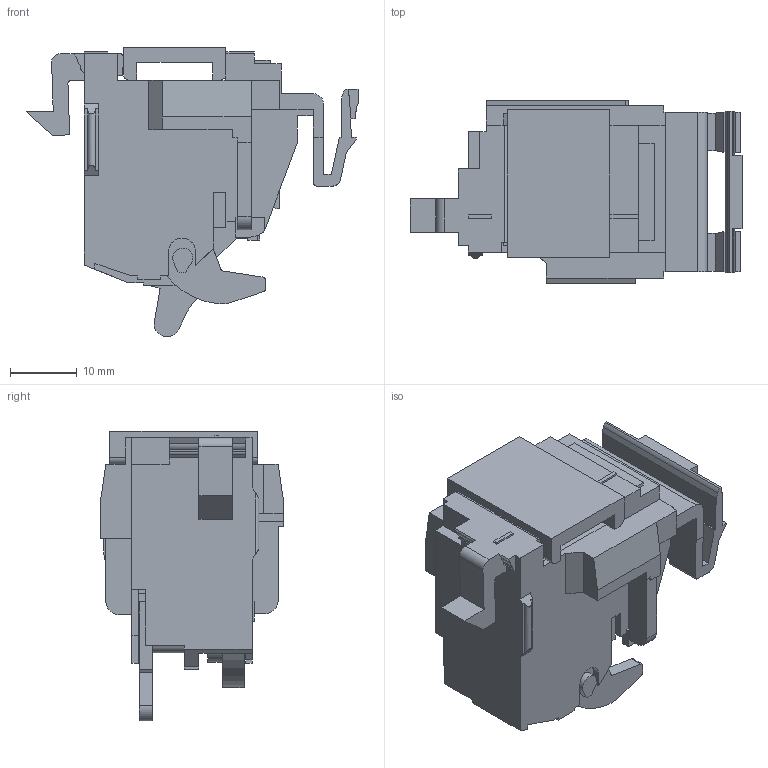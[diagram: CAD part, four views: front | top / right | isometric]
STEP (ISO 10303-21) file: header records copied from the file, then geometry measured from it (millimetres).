
FILE_DESCRIPTION(/* description */ (''),/* implementation_level */ '2;1');
FILE_NAME(/* name */ '2023.11.10.stp',/* time_stamp */ '2023-11-10T14:08:06+08:00',/* author */ (''),/* organization */ (''),/* preprocessor_version */ 'ST-DEVELOPER v16',/* originating_system */ 'SIEMENS PLM Software NX 10.0',/* authorisation */ '');
FILE_SCHEMA (('AUTOMOTIVE_DESIGN { 1 0 10303 214 3 1 1 1 }'));
Length unit declared in the file: millimetre
Products named in the file (1): midi08580DE3vsaf
Bounding box: 49.92 x 27.5 x 43.56 mm (x, y, z)
Volume: 16805.7 mm3; surface area: 9607.8 mm2
Topology: 1 solids, 1 shells, 348 faces, 1051 edges, 688 vertices
Faces by surface type: plane 306, cylinder 42
Full cylindrical faces by diameter (mm): 3 x4
Entity records: 11618 total; most frequent: ORIENTED_EDGE 2086, CARTESIAN_POINT 2082, DIRECTION 1836, EDGE_CURVE 1043, LINE 944, VECTOR 944, VERTEX_POINT 684, AXIS2_PLACEMENT_3D 446
